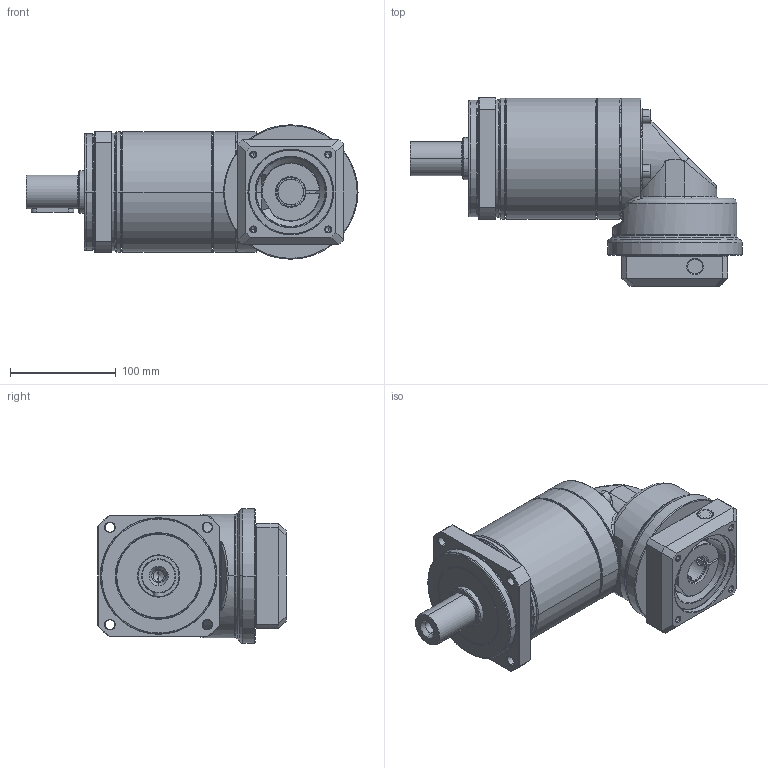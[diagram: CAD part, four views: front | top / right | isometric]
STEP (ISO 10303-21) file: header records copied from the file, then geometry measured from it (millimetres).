
FILE_DESCRIPTION((''),'2;1');
FILE_NAME('PA2R-115_2ST_24-P0411500101_ASM','2016-05-17T',('d01943'),(''),'PRO/ENGINEER BY PARAMETRIC TECHNOLOGY CORPORATION, 2008410','PRO/ENGINEER BY PARAMETRIC TECHNOLOGY CORPORATION, 2008410','');
FILE_SCHEMA(('CONFIG_CONTROL_DESIGN'));
Length unit declared in the file: millimetre
Products named in the file (12): P1327410001; P0251400001; P0350400601; P1349400001; P1017400001; P0713401001; P0503500008; P1350400101; P0411500101; P1702500001; 2111B108035; PA2R-115_2ST_24-P0411500101_ASM
Assembly tree (14 placements, depth 2):
  PA2R-115_2ST_24-P0411500101_ASM
    P1327410001
    P0251400001
    P0350400601
    P1349400001
    P1017400001
    P0713401001
    P0503500008
    P1350400101
    P0411500101
    P1702500001
    2111B108035  x4
Bounding box: 313.5 x 178 x 127 mm (x, y, z)
Volume: 1762314.9 mm3; surface area: 350252.8 mm2
Topology: 14 solids, 14 shells, 738 faces, 1626 edges, 938 vertices
Faces by surface type: cylinder 218, cone 214, plane 168, torus 106, bspline 32
Entity records: 23370 total; most frequent: CARTESIAN_POINT 9066, DIRECTION 3162, ORIENTED_EDGE 2776, EDGE_CURVE 1388, AXIS2_PLACEMENT_3D 1332, VERTEX_POINT 818, EDGE_LOOP 720, CIRCLE 699
